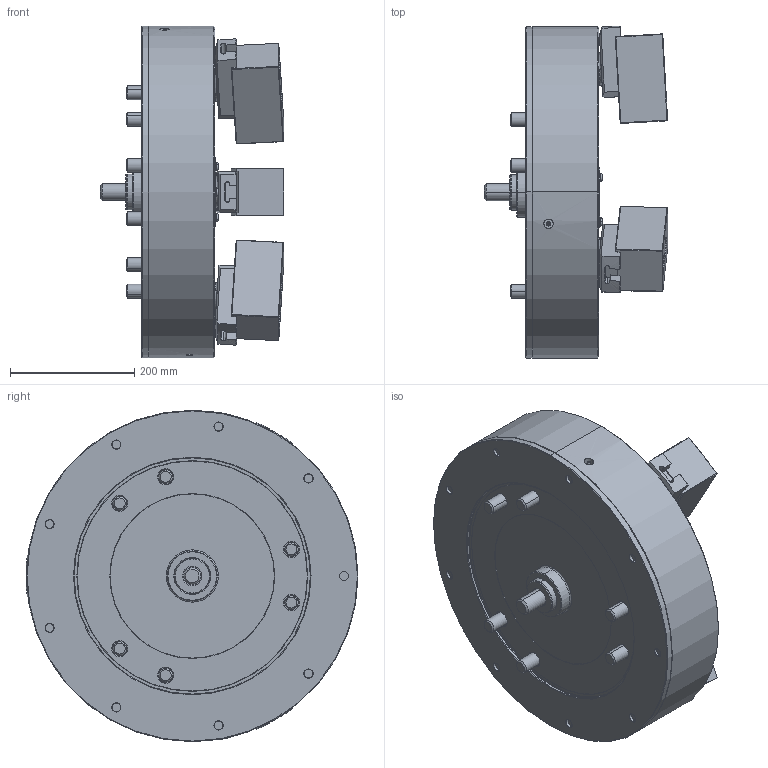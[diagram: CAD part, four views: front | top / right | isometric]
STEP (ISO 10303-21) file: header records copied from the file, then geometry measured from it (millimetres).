
FILE_DESCRIPTION (( 'STEP AP214' ), '1' );
FILE_NAME ('PW-21_UC.STEP', '2023-07-28T02:35:55', ( '' ), ( '' ), 'SwSTEP 2.0', 'SolidWorks 2020', '' );
FILE_SCHEMA (( 'AUTOMOTIVE_DESIGN' ));
Length unit declared in the file: millimetre
Products named in the file (5): PW-21_61P326096_ソフトジョー; PW-21_UC; 0030120030; Part41^61P118462_dummy; 61P422878
Assembly tree (13 placements, depth 2):
  PW-21_UC
    PW-21_61P326096_ソフトジョー  x3
    61P422878  x3
    0030120030  x6
    Part41^61P118462_dummy
Bounding box: 294.68 x 533.81 x 533 mm (x, y, z)
Volume: 28468329.4 mm3; surface area: 1165785.5 mm2
Topology: 13 solids, 17 shells, 3195 faces, 8228 edges, 5332 vertices
Faces by surface type: plane 1878, bspline 584, cone 374, cylinder 317, torus 34, sphere 8
Entity records: 112474 total; most frequent: CARTESIAN_POINT 44185, ORIENTED_EDGE 15288, DIRECTION 11698, EDGE_CURVE 7644, LINE 5114, VECTOR 5114, VERTEX_POINT 4989, AXIS2_PLACEMENT_3D 3292
